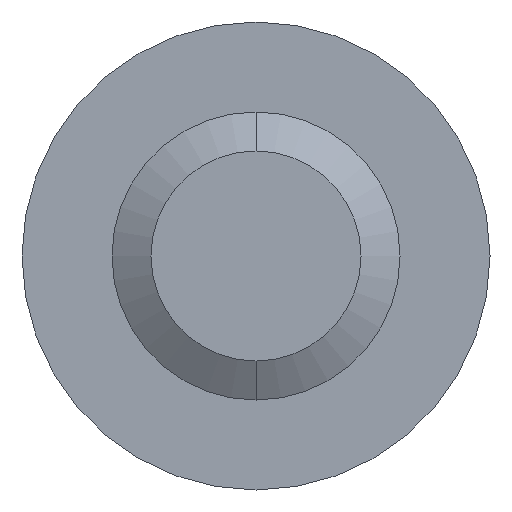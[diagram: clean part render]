
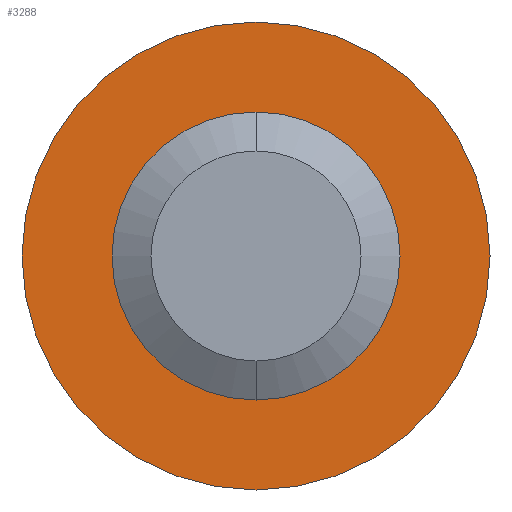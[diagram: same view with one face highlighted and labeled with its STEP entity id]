
A CAD part, front view. The second image highlights one B-rep face of the part: STEP entity #3288.
In plain terms, the highlighted planar face has unit normal (0, -1, 0).
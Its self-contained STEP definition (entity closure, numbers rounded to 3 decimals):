
#149 = CARTESIAN_POINT ( 'NONE',  ( 0., 40., 0. ) ) ;
#261 = DIRECTION ( 'NONE',  ( 0., 1., 0. ) ) ;
#284 = DIRECTION ( 'NONE',  ( 0., 0., 1. ) ) ;
#359 = AXIS2_PLACEMENT_3D ( 'NONE', #677, #1000, #3123 ) ;
#568 = VERTEX_POINT ( 'NONE', #3015 ) ;
#617 = ORIENTED_EDGE ( 'NONE', *, *, #2012, .F. ) ;
#657 = CARTESIAN_POINT ( 'NONE',  ( 0., 40., -6.5 ) ) ;
#677 = CARTESIAN_POINT ( 'NONE',  ( 0., 40., 0. ) ) ;
#780 = CARTESIAN_POINT ( 'NONE',  ( 0., 40., 6.5 ) ) ;
#807 = CIRCLE ( 'NONE', #3233, 4. ) ;
#811 = EDGE_LOOP ( 'NONE', ( #617, #1324 ) ) ;
#913 = VERTEX_POINT ( 'NONE', #780 ) ;
#1000 = DIRECTION ( 'NONE',  ( 0., 1., 0. ) ) ;
#1150 = CARTESIAN_POINT ( 'NONE',  ( 0., 40., 0. ) ) ;
#1235 = EDGE_CURVE ( 'NONE', #3475, #568, #3495, .T. ) ;
#1300 = FACE_OUTER_BOUND ( 'NONE', #811, .T. ) ;
#1306 = VERTEX_POINT ( 'NONE', #657 ) ;
#1324 = ORIENTED_EDGE ( 'NONE', *, *, #3974, .F. ) ;
#1388 = CIRCLE ( 'NONE', #1954, 6.5 ) ;
#1390 = DIRECTION ( 'NONE',  ( 0., 1., 0. ) ) ;
#1422 = CARTESIAN_POINT ( 'NONE',  ( 0., 40., 0. ) ) ;
#1954 = AXIS2_PLACEMENT_3D ( 'NONE', #149, #1390, #3527 ) ;
#2012 = EDGE_CURVE ( 'NONE', #1306, #913, #1388, .T. ) ;
#2066 = EDGE_CURVE ( 'NONE', #568, #3475, #807, .T. ) ;
#2370 = DIRECTION ( 'NONE',  ( 0., 1., 0. ) ) ;
#2468 = DIRECTION ( 'NONE',  ( 0., 1., 0. ) ) ;
#2525 = CARTESIAN_POINT ( 'NONE',  ( 0., 40., 0. ) ) ;
#2942 = CARTESIAN_POINT ( 'NONE',  ( 0., 40., 4. ) ) ;
#3015 = CARTESIAN_POINT ( 'NONE',  ( 0., 40., -4. ) ) ;
#3069 = ORIENTED_EDGE ( 'NONE', *, *, #1235, .T. ) ;
#3123 = DIRECTION ( 'NONE',  ( 0., 0., 1. ) ) ;
#3191 = AXIS2_PLACEMENT_3D ( 'NONE', #1422, #261, #3936 ) ;
#3233 = AXIS2_PLACEMENT_3D ( 'NONE', #1150, #2370, #284 ) ;
#3288 = ADVANCED_FACE ( 'NONE', ( #1300, #3720 ), #3425, .F. ) ;
#3364 = AXIS2_PLACEMENT_3D ( 'NONE', #2525, #2468, #3726 ) ;
#3425 = PLANE ( 'NONE',  #359 ) ;
#3454 = CIRCLE ( 'NONE', #3191, 6.5 ) ;
#3475 = VERTEX_POINT ( 'NONE', #2942 ) ;
#3495 = CIRCLE ( 'NONE', #3364, 4. ) ;
#3527 = DIRECTION ( 'NONE',  ( 0., 0., 1. ) ) ;
#3720 = FACE_BOUND ( 'NONE', #3939, .T. ) ;
#3726 = DIRECTION ( 'NONE',  ( 0., 0., 1. ) ) ;
#3914 = ORIENTED_EDGE ( 'NONE', *, *, #2066, .T. ) ;
#3936 = DIRECTION ( 'NONE',  ( 0., 0., 1. ) ) ;
#3939 = EDGE_LOOP ( 'NONE', ( #3914, #3069 ) ) ;
#3974 = EDGE_CURVE ( 'NONE', #913, #1306, #3454, .T. ) ;
